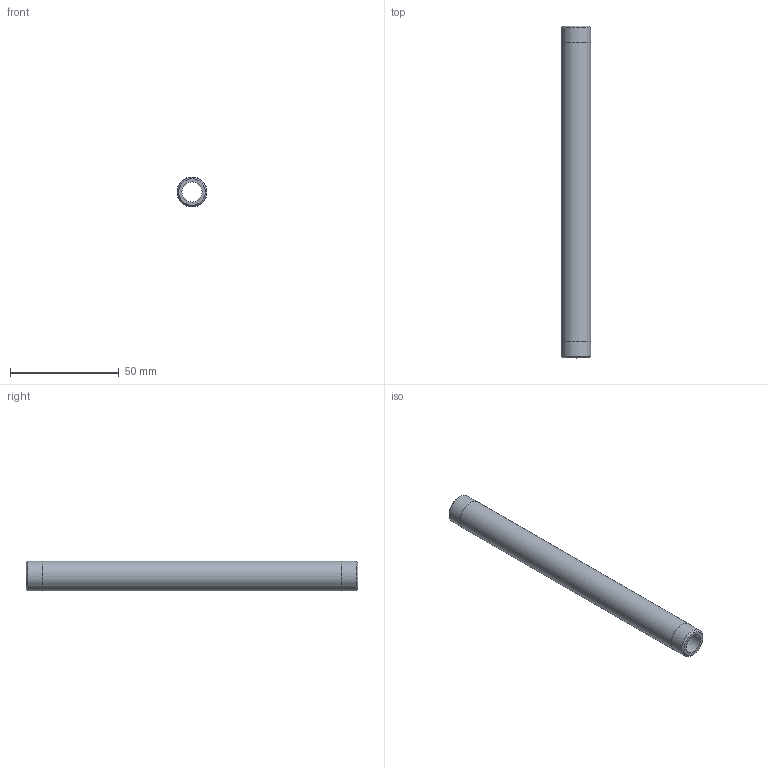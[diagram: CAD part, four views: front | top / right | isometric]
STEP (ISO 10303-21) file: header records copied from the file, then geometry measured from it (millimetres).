
FILE_DESCRIPTION(/* description */ (''),/* implementation_level */ '2;1');
FILE_NAME(/* name */ 'C:/Users/drich/Desktop/SSPN14-6 v1.step',/* time_stamp */ '2020-01-04T13:14:25-06:00',/* author */ (''),/* organization */ (''),/* preprocessor_version */ 'ST-DEVELOPER v18',/* originating_system */ 'Autodesk Translation Framework v8.12.0.6',/* authorisation */ '');
FILE_SCHEMA (('AUTOMOTIVE_DESIGN { 1 0 10303 214 3 1 1 }'));
Length unit declared in the file: inch
Products named in the file (1): SSPN14-6
Bounding box: 13.72 x 152.4 x 13.72 mm (x, y, z)
Volume: 12245.7 mm3; surface area: 11112.5 mm2
Topology: 1 solids, 1 shells, 10 faces, 24 edges, 18 vertices
Faces by surface type: cylinder 4, plane 4, cone 2
Full cylindrical faces by diameter (mm): 9.246 x1, 13.665 x2, 13.716 x1
Entity records: 353 total; most frequent: DIRECTION 64, CARTESIAN_POINT 53, ORIENTED_EDGE 48, AXIS2_PLACEMENT_3D 29, EDGE_CURVE 24, CIRCLE 18, VERTEX_POINT 18, EDGE_LOOP 14
